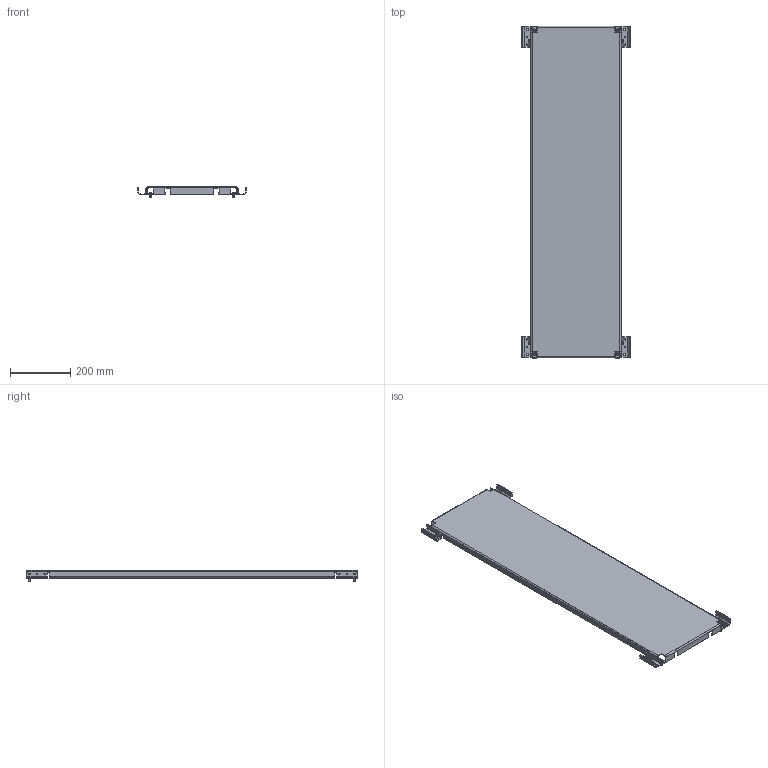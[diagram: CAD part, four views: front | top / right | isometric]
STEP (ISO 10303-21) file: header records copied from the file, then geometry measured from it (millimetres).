
FILE_DESCRIPTION (( 'STEP AP214' ), '1' );
FILE_NAME ('MSD 120.40 M ÑÁ Ïàíåëü ìîíòàæíàÿ ñåêöèîííàÿ â ñáîðå.STEP', '2024-06-14T12:08:33', ( '' ), ( '' ), 'SwSTEP 2.0', 'SolidWorks 2019', '' );
FILE_SCHEMA (( 'AUTOMOTIVE_DESIGN' ));
Length unit declared in the file: millimetre
Products named in the file (1): MSD 120.40 M ÑÁ Ïàíåëü ìîíòàæíàÿ ñåêöèîííàÿ â ñáîðå
Bounding box: 358 x 1099 x 36.58 mm (x, y, z)
Volume: 1080803.6 mm3; surface area: 880419.4 mm2
Topology: 13 solids, 13 shells, 790 faces, 1924 edges, 1176 vertices
Faces by surface type: plane 358, cylinder 344, torus 48, bspline 16, cone 16, sphere 8
Entity records: 37512 total; most frequent: CARTESIAN_POINT 10079, DIRECTION 3998, ORIENTED_EDGE 3832, EDGE_CURVE 1916, AXIS2_PLACEMENT_3D 1487, VERTEX_POINT 1176, VECTOR 1024, LINE 1024
